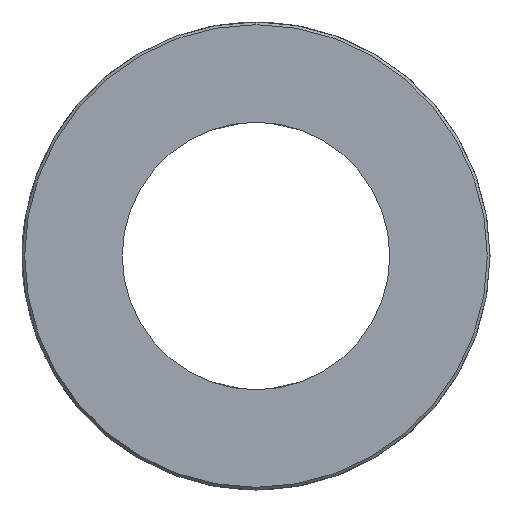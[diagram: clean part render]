
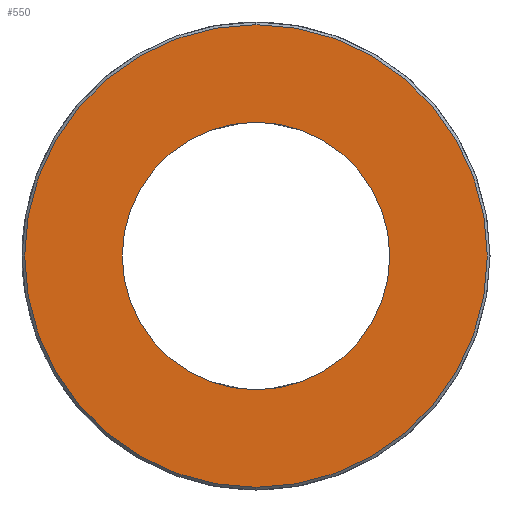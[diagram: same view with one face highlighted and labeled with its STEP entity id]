
A CAD part, left-side view. The second image highlights one B-rep face of the part: STEP entity #550.
In plain terms, the highlighted planar face has unit normal (-1, 0, 0) as drawn and (0, 0, 1) by its records, which use the part's own axes.
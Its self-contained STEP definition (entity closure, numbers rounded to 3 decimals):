
#8 = VERTEX_POINT ( 'NONE', #491 ) ;
#35 = AXIS2_PLACEMENT_3D ( 'NONE', #1186, #1810, #1396 ) ;
#73 = AXIS2_PLACEMENT_3D ( 'NONE', #1646, #880, #1492 ) ;
#77 = VERTEX_POINT ( 'NONE', #1577 ) ;
#97 = FACE_OUTER_BOUND ( 'NONE', #985, .T. ) ;
#130 = FACE_BOUND ( 'NONE', #970, .T. ) ;
#153 = DIRECTION ( 'NONE',  ( 1., 0., 0. ) ) ;
#181 = DIRECTION ( 'NONE',  ( 1., 0., 0. ) ) ;
#185 = CARTESIAN_POINT ( 'NONE',  ( 10., 0., 6. ) ) ;
#194 = AXIS2_PLACEMENT_3D ( 'NONE', #1686, #1247, #153 ) ;
#244 = EDGE_CURVE ( 'NONE', #77, #1679, #1438, .T. ) ;
#319 = CARTESIAN_POINT ( 'NONE',  ( 17.3, 0., 6. ) ) ;
#491 = CARTESIAN_POINT ( 'NONE',  ( -17.3, 0., 6. ) ) ;
#550 = ADVANCED_FACE ( 'NONE', ( #97, #130 ), #1965, .T. ) ;
#575 = CARTESIAN_POINT ( 'NONE',  ( 0., 0., 6. ) ) ;
#601 = VERTEX_POINT ( 'NONE', #319 ) ;
#619 = EDGE_CURVE ( 'NONE', #8, #601, #1051, .T. ) ;
#624 = CIRCLE ( 'NONE', #1206, 10. ) ;
#716 = ORIENTED_EDGE ( 'NONE', *, *, #1134, .F. ) ;
#880 = DIRECTION ( 'NONE',  ( 0., 0., 1. ) ) ;
#896 = DIRECTION ( 'NONE',  ( 1., 0., 0. ) ) ;
#969 = DIRECTION ( 'NONE',  ( 0., 0., 1. ) ) ;
#970 = EDGE_LOOP ( 'NONE', ( #1431, #716 ) ) ;
#977 = CARTESIAN_POINT ( 'NONE',  ( 0., 0., 6. ) ) ;
#985 = EDGE_LOOP ( 'NONE', ( #1966, #2010 ) ) ;
#1051 = CIRCLE ( 'NONE', #194, 17.3 ) ;
#1134 = EDGE_CURVE ( 'NONE', #1679, #77, #624, .T. ) ;
#1186 = CARTESIAN_POINT ( 'NONE',  ( 0., 0., 6. ) ) ;
#1206 = AXIS2_PLACEMENT_3D ( 'NONE', #977, #969, #181 ) ;
#1240 = CIRCLE ( 'NONE', #1661, 17.3 ) ;
#1247 = DIRECTION ( 'NONE',  ( 0., 0., 1. ) ) ;
#1396 = DIRECTION ( 'NONE',  ( 1., 0., 0. ) ) ;
#1422 = EDGE_CURVE ( 'NONE', #601, #8, #1240, .T. ) ;
#1431 = ORIENTED_EDGE ( 'NONE', *, *, #244, .F. ) ;
#1438 = CIRCLE ( 'NONE', #73, 10. ) ;
#1492 = DIRECTION ( 'NONE',  ( 1., 0., 0. ) ) ;
#1577 = CARTESIAN_POINT ( 'NONE',  ( -10., 0., 6. ) ) ;
#1646 = CARTESIAN_POINT ( 'NONE',  ( 0., 0., 6. ) ) ;
#1661 = AXIS2_PLACEMENT_3D ( 'NONE', #575, #1830, #896 ) ;
#1679 = VERTEX_POINT ( 'NONE', #185 ) ;
#1686 = CARTESIAN_POINT ( 'NONE',  ( 0., 0., 6. ) ) ;
#1810 = DIRECTION ( 'NONE',  ( 0., 0., 1. ) ) ;
#1830 = DIRECTION ( 'NONE',  ( 0., 0., 1. ) ) ;
#1965 = PLANE ( 'NONE',  #35 ) ;
#1966 = ORIENTED_EDGE ( 'NONE', *, *, #619, .T. ) ;
#2010 = ORIENTED_EDGE ( 'NONE', *, *, #1422, .T. ) ;
